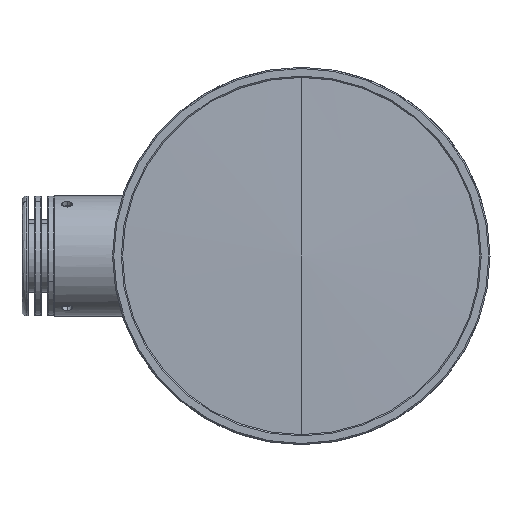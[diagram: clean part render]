
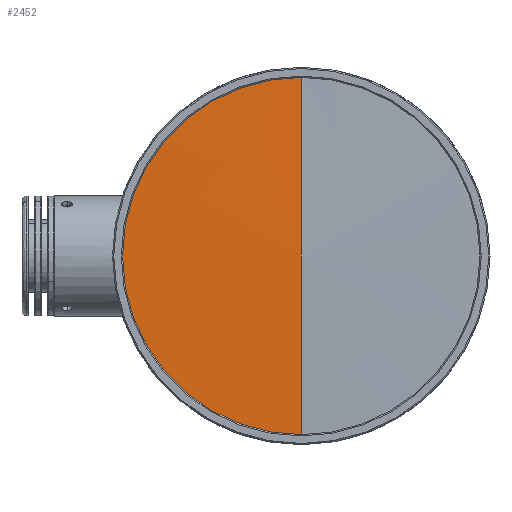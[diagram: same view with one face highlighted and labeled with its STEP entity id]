
A CAD part, left-side view. The second image highlights one B-rep face of the part: STEP entity #2452.
In plain terms, the highlighted conical face has half-angle 88.828 degrees and reference radius 42.609 mm.
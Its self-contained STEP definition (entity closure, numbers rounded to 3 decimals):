
#137 = CONICAL_SURFACE ( 'NONE', #4029, 42.609, 1.55 ) ;
#441 = DIRECTION ( 'NONE',  ( 0.02, 0., 1. ) ) ;
#606 = DIRECTION ( 'NONE',  ( 0.02, 0., -1. ) ) ;
#754 = EDGE_CURVE ( 'NONE', #21726, #27294, #899, .T. ) ;
#773 = CARTESIAN_POINT ( 'NONE',  ( 0.852, 0., -41.65 ) ) ;
#825 = CARTESIAN_POINT ( 'NONE',  ( 0.871, 0., 42.609 ) ) ;
#899 = CIRCLE ( 'NONE', #3623, 41.65 ) ;
#980 = ORIENTED_EDGE ( 'NONE', *, *, #25197, .T. ) ;
#1285 = EDGE_CURVE ( 'NONE', #27304, #21726, #12987, .T. ) ;
#1941 = AXIS2_PLACEMENT_3D ( 'NONE', #6507, #10828, #28352 ) ;
#2452 = ADVANCED_FACE ( 'NONE', ( #5697 ), #137, .T. ) ;
#3623 = AXIS2_PLACEMENT_3D ( 'NONE', #6658, #15426, #24295 ) ;
#4029 = AXIS2_PLACEMENT_3D ( 'NONE', #10442, #8148, #23372 ) ;
#5697 = FACE_OUTER_BOUND ( 'NONE', #16260, .T. ) ;
#6507 = CARTESIAN_POINT ( 'NONE',  ( 0.852, 0., 0. ) ) ;
#6658 = CARTESIAN_POINT ( 'NONE',  ( 0.852, 0., 0. ) ) ;
#6920 = CARTESIAN_POINT ( 'NONE',  ( 0., 0., 0. ) ) ;
#8148 = DIRECTION ( 'NONE',  ( 1., 0., 0. ) ) ;
#8593 = EDGE_CURVE ( 'NONE', #13960, #27304, #16187, .T. ) ;
#9409 = CARTESIAN_POINT ( 'NONE',  ( 0.871, 0., -42.609 ) ) ;
#10442 = CARTESIAN_POINT ( 'NONE',  ( 0.871, 0., 0. ) ) ;
#10828 = DIRECTION ( 'NONE',  ( 1., 0., 0. ) ) ;
#12179 = ORIENTED_EDGE ( 'NONE', *, *, #754, .F. ) ;
#12987 = CIRCLE ( 'NONE', #1941, 41.65 ) ;
#13960 = VERTEX_POINT ( 'NONE', #6920 ) ;
#15426 = DIRECTION ( 'NONE',  ( 1., 0., 0. ) ) ;
#16187 = LINE ( 'NONE', #9409, #23787 ) ;
#16260 = EDGE_LOOP ( 'NONE', ( #20016, #980, #12179, #27753 ) ) ;
#17299 = VECTOR ( 'NONE', #441, 1000. ) ;
#20016 = ORIENTED_EDGE ( 'NONE', *, *, #8593, .F. ) ;
#21726 = VERTEX_POINT ( 'NONE', #25135 ) ;
#23372 = DIRECTION ( 'NONE',  ( 0., 0., -1. ) ) ;
#23787 = VECTOR ( 'NONE', #606, 1000. ) ;
#23868 = LINE ( 'NONE', #825, #17299 ) ;
#24295 = DIRECTION ( 'NONE',  ( 0., 0., -1. ) ) ;
#25135 = CARTESIAN_POINT ( 'NONE',  ( 0.852, 41.65, 0. ) ) ;
#25197 = EDGE_CURVE ( 'NONE', #13960, #27294, #23868, .T. ) ;
#26710 = CARTESIAN_POINT ( 'NONE',  ( 0.852, 0., 41.65 ) ) ;
#27294 = VERTEX_POINT ( 'NONE', #26710 ) ;
#27304 = VERTEX_POINT ( 'NONE', #773 ) ;
#27753 = ORIENTED_EDGE ( 'NONE', *, *, #1285, .F. ) ;
#28352 = DIRECTION ( 'NONE',  ( 0., 0., -1. ) ) ;
